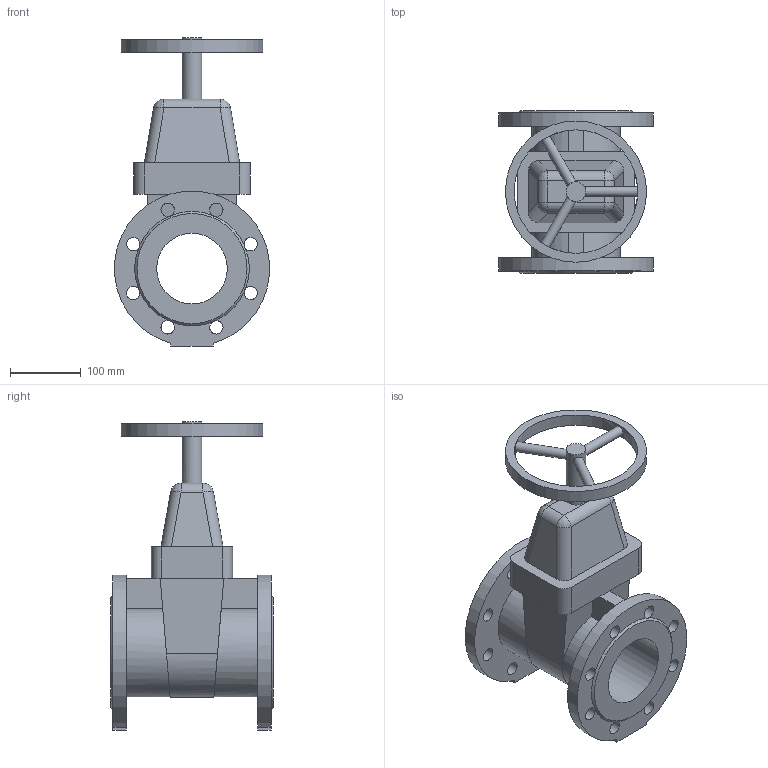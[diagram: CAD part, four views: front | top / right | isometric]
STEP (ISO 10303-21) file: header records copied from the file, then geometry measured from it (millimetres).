
FILE_DESCRIPTION(('STEP AP203'), '1');
FILE_NAME('Çàäâèæêà 47GV DN100 PN10_PN16_L230 ñ ìàõîâèêîì', '', ('UNSPECIFIED'), ('UNSPECIFIED'), 'ASCON STEP Converter 1.6', 'ASCON Math Kernel', '');
FILE_SCHEMA(('CONFIG_CONTROL_DESIGN'));
Length unit declared in the file: millimetre
Bounding box: 219.31 x 230 x 437 mm (x, y, z)
Volume: 4502865.2 mm3; surface area: 442730.5 mm2
Topology: 1 solids, 1 shells, 108 faces, 318 edges, 202 vertices
Faces by surface type: plane 54, cylinder 48, bspline 4, cone 2
Full cylindrical faces by diameter (mm): 14 x3, 19 x16, 28 x1, 100 x1, 175 x1, 200 x1
Entity records: 6055 total; most frequent: CARTESIAN_POINT 2335, DIRECTION 574, ORIENTED_EDGE 574, EDGE_CURVE 287, AXIS2_PLACEMENT_3D 221, VERTEX_POINT 201, EDGE_LOOP 168, FACE_BOUND 137
